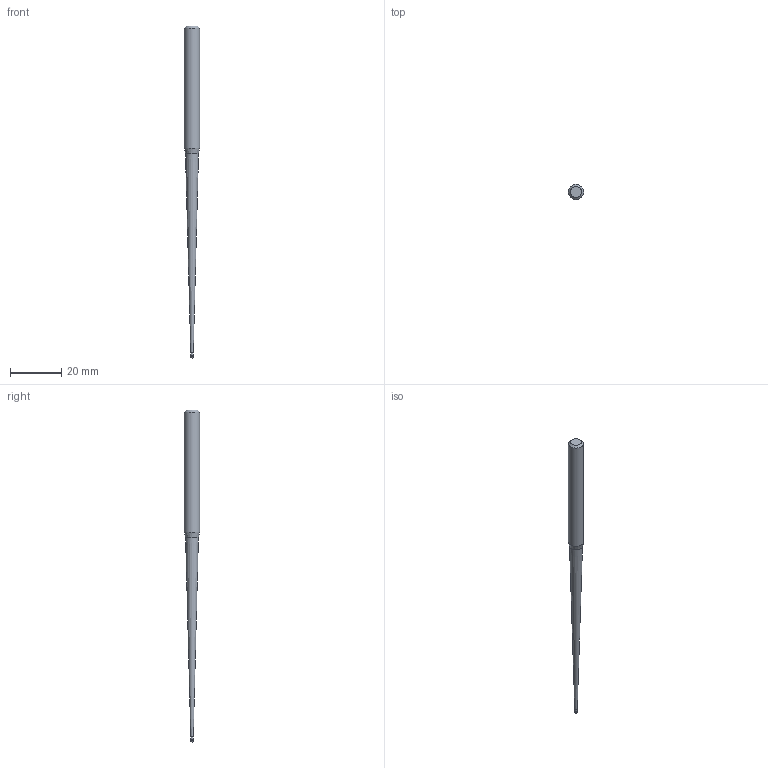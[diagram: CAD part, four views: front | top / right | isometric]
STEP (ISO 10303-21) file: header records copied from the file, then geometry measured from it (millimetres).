
FILE_DESCRIPTION((''),'2;1');
FILE_NAME('C:\Users\nsx150\AppData\Local\Temp\Mastercam 2021\SNAKH10GOD\TEMP.step','2021-10-21T13:32:19',(''),(''),'STEP Write','Mastercam 2021 ... CNC Software, Inc.','');
FILE_SCHEMA(('AUTOMOTIVE_DESIGN'));
Length unit declared in the file: millimetre
Products named in the file (1): None
Bounding box: 6 x 6 x 130 mm (x, y, z)
Volume: 2052.2 mm3; surface area: 1711.2 mm2
Topology: 2 solids, 2 shells, 10 faces, 16 edges, 9 vertices
Faces by surface type: plane 3, cylinder 3, cone 3, sphere 1
Full cylindrical faces by diameter (mm): 0.985 x1, 1 x1, 6 x1
Entity records: 232 total; most frequent: DIRECTION 40, CARTESIAN_POINT 28, AXIS2_PLACEMENT_3D 20, ORIENTED_EDGE 16, EDGE_LOOP 16, STYLED_ITEM 13, ADVANCED_FACE 10, FACE_BOUND 9
